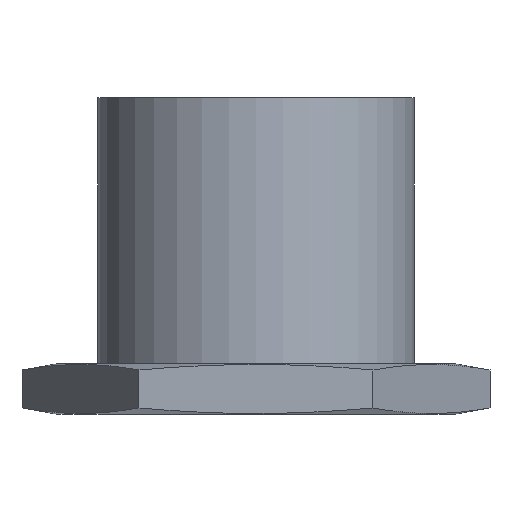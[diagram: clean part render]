
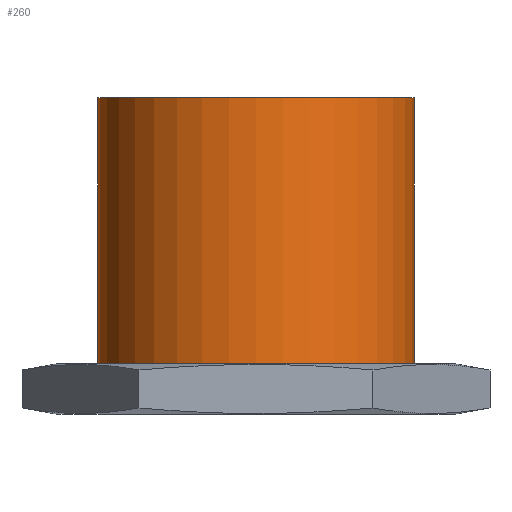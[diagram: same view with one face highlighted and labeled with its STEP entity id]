
A CAD part, front view. The second image highlights one B-rep face of the part: STEP entity #260.
In plain terms, the highlighted cylindrical face has radius 12.5 mm (diameter 25 mm), a partial arc.
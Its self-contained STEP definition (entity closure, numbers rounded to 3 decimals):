
#50 = VECTOR ( 'NONE', #195, 1000. ) ;
#113 = EDGE_CURVE ( 'NONE', #1815, #1002, #665, .T. ) ;
#195 = DIRECTION ( 'NONE',  ( 0., 0., -1. ) ) ;
#207 = AXIS2_PLACEMENT_3D ( 'NONE', #1339, #881, #1482 ) ;
#231 = FACE_OUTER_BOUND ( 'NONE', #757, .T. ) ;
#260 = ADVANCED_FACE ( 'NONE', ( #231 ), #533, .T. ) ;
#294 = CARTESIAN_POINT ( 'NONE',  ( -12.5, 0., 25. ) ) ;
#313 = AXIS2_PLACEMENT_3D ( 'NONE', #1933, #2071, #557 ) ;
#410 = CARTESIAN_POINT ( 'NONE',  ( 12.5, 0., 25. ) ) ;
#533 = CYLINDRICAL_SURFACE ( 'NONE', #207, 12.5 ) ;
#557 = DIRECTION ( 'NONE',  ( 1., 0., 0. ) ) ;
#608 = ORIENTED_EDGE ( 'NONE', *, *, #1245, .T. ) ;
#647 = DIRECTION ( 'NONE',  ( 0., 0., -1. ) ) ;
#656 = VERTEX_POINT ( 'NONE', #1163 ) ;
#665 = CIRCLE ( 'NONE', #1894, 12.5 ) ;
#724 = EDGE_CURVE ( 'NONE', #1239, #656, #1851, .T. ) ;
#757 = EDGE_LOOP ( 'NONE', ( #1205, #2037, #608, #1886 ) ) ;
#857 = LINE ( 'NONE', #410, #50 ) ;
#866 = VECTOR ( 'NONE', #647, 1000. ) ;
#874 = CARTESIAN_POINT ( 'NONE',  ( -12.5, 0., 4. ) ) ;
#881 = DIRECTION ( 'NONE',  ( 0., 0., -1. ) ) ;
#1002 = VERTEX_POINT ( 'NONE', #1180 ) ;
#1124 = CARTESIAN_POINT ( 'NONE',  ( 0., 0., 4. ) ) ;
#1163 = CARTESIAN_POINT ( 'NONE',  ( 12.5, 0., 25. ) ) ;
#1180 = CARTESIAN_POINT ( 'NONE',  ( 12.5, 0., 4. ) ) ;
#1205 = ORIENTED_EDGE ( 'NONE', *, *, #1532, .F. ) ;
#1239 = VERTEX_POINT ( 'NONE', #294 ) ;
#1245 = EDGE_CURVE ( 'NONE', #1239, #1815, #1269, .T. ) ;
#1269 = LINE ( 'NONE', #1590, #866 ) ;
#1289 = DIRECTION ( 'NONE',  ( 0., 0., 1. ) ) ;
#1339 = CARTESIAN_POINT ( 'NONE',  ( 0., 0., 25. ) ) ;
#1462 = DIRECTION ( 'NONE',  ( 1., 0., 0. ) ) ;
#1482 = DIRECTION ( 'NONE',  ( -1., 0., 0. ) ) ;
#1532 = EDGE_CURVE ( 'NONE', #656, #1002, #857, .T. ) ;
#1590 = CARTESIAN_POINT ( 'NONE',  ( -12.5, 0., 25. ) ) ;
#1815 = VERTEX_POINT ( 'NONE', #874 ) ;
#1851 = CIRCLE ( 'NONE', #313, 12.5 ) ;
#1886 = ORIENTED_EDGE ( 'NONE', *, *, #113, .T. ) ;
#1894 = AXIS2_PLACEMENT_3D ( 'NONE', #1124, #1289, #1462 ) ;
#1933 = CARTESIAN_POINT ( 'NONE',  ( 0., 0., 25. ) ) ;
#2037 = ORIENTED_EDGE ( 'NONE', *, *, #724, .F. ) ;
#2071 = DIRECTION ( 'NONE',  ( 0., 0., 1. ) ) ;
